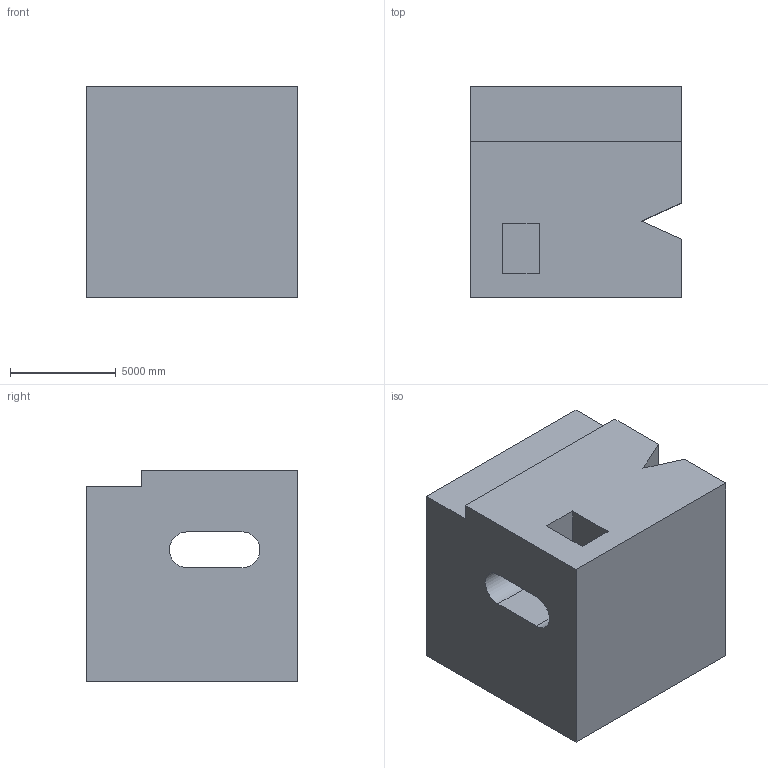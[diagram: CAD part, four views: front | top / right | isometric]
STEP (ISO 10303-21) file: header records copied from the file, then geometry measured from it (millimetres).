
FILE_DESCRIPTION (( 'STEP AP203' ), '1' );
FILE_NAME ('147.STEP', '2022-09-06T15:13:14', ( 'user' ), ( '' ), 'SwSTEP 2.0', 'SolidWorks 2021', '' );
FILE_SCHEMA (( 'CONFIG_CONTROL_DESIGN' ));
Length unit declared in the file: centimetre
Products named in the file (1): 147
Bounding box: 10000 x 10000 x 10000 mm (x, y, z)
Volume: 853024540904.3 mm3; surface area: 792328944.4 mm2
Topology: 1 solids, 1 shells, 29 faces, 84 edges, 56 vertices
Faces by surface type: plane 26, cylinder 3
Entity records: 1029 total; most frequent: CARTESIAN_POINT 170, ORIENTED_EDGE 168, DIRECTION 150, EDGE_CURVE 84, LINE 78, VECTOR 78, VERTEX_POINT 56, AXIS2_PLACEMENT_3D 36
